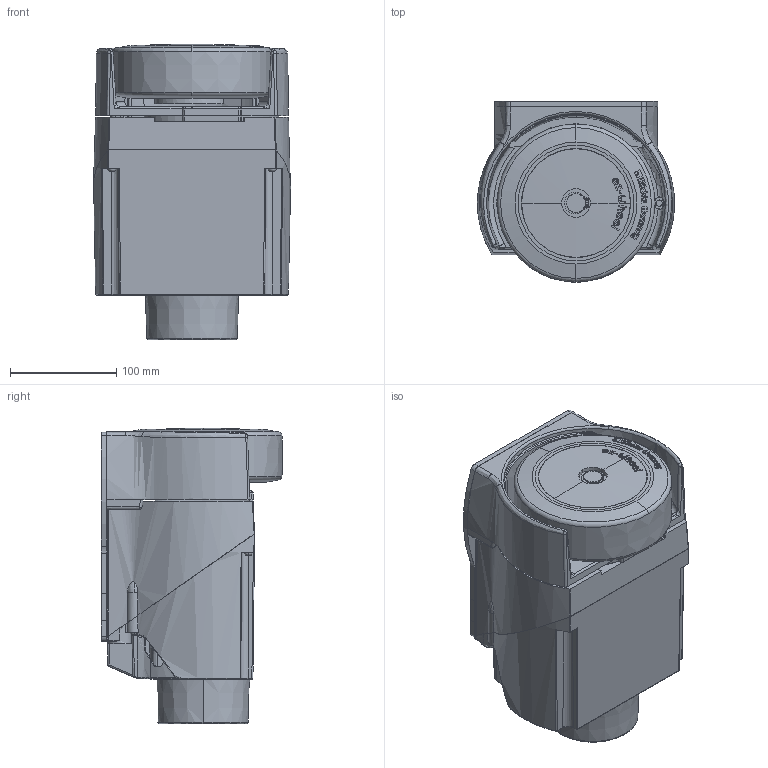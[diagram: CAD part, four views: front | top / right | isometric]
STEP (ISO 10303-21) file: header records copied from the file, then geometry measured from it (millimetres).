
FILE_DESCRIPTION (( 'STEP AP203' ), '1' );
FILE_NAME ('A_202590.STEP', '2018-10-12T14:24:59', ( '' ), ( '' ), 'SwSTEP 2.0', 'SolidWorks 2014', '' );
FILE_SCHEMA (( 'CONFIG_CONTROL_DESIGN' ));
Length unit declared in the file: millimetre
Products named in the file (1): A_202590
Bounding box: 185.99 x 170.73 x 278.38 mm (x, y, z)
Surface area: 423087 mm2 (no closed solid volume)
Topology: 0 solids, 47 shells, 942 faces, 3528 edges, 2568 vertices
Faces by surface type: plane 361, cylinder 181, bspline 177, cone 139, torus 60, sphere 24
Entity records: 47535 total; most frequent: CARTESIAN_POINT 20173, ORIENTED_EDGE 5528, DIRECTION 5003, EDGE_CURVE 3522, VERTEX_POINT 2568, AXIS2_PLACEMENT_3D 1846, LINE 1311, VECTOR 1311
